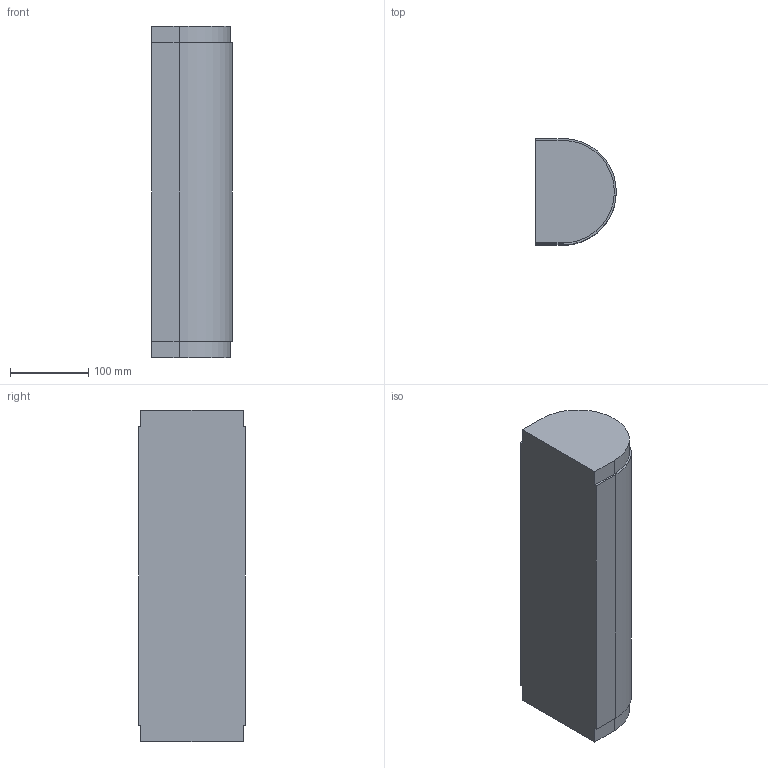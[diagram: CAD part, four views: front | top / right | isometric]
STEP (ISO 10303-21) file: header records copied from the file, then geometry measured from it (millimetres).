
FILE_DESCRIPTION (( 'STEP AP214' ), '1' );
FILE_NAME ('02.150I01.420.N FS-MTC-150 Omloop.STEP', '2013-03-29T10:55:46', ( 'Gebruiker' ), ( '' ), 'SwSTEP 2.0', 'SolidWorks 2012', '' );
FILE_SCHEMA (( 'AUTOMOTIVE_DESIGN' ));
Length unit declared in the file: millimetre
Products named in the file (1): 02.150I01.420.N FS-MTC-150 Omloop
Bounding box: 103 x 136 x 423 mm (x, y, z)
Volume: 5056513.6 mm3; surface area: 201009.6 mm2
Topology: 1 solids, 1 shells, 14 faces, 36 edges, 24 vertices
Faces by surface type: plane 11, cylinder 3
Entity records: 460 total; most frequent: CARTESIAN_POINT 75, DIRECTION 72, ORIENTED_EDGE 72, EDGE_CURVE 36, LINE 30, VECTOR 30, VERTEX_POINT 24, AXIS2_PLACEMENT_3D 21
